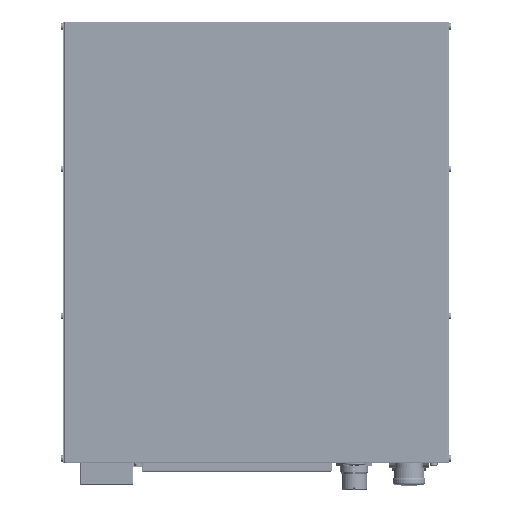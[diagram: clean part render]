
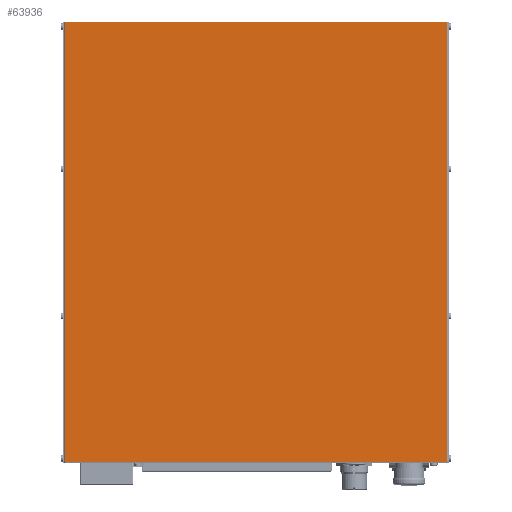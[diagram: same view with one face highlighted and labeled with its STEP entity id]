
A CAD part, top view. The second image highlights one B-rep face of the part: STEP entity #63936.
In plain terms, the highlighted planar face has unit normal (0, 0, 1) as drawn and (0, 1, 0) by its records, which use the part's own axes.
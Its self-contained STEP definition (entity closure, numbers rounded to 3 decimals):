
#2574 = CARTESIAN_POINT ( 'NONE',  ( -38.193, 202.905, -460.868 ) ) ;
#22201 = VERTEX_POINT ( 'NONE', #417628 ) ;
#63437 = DIRECTION ( 'NONE',  ( -1., 0., 0. ) ) ;
#63936 = ADVANCED_FACE ( 'NONE', ( #117860 ), #545692, .T. ) ;
#64973 = ORIENTED_EDGE ( 'NONE', *, *, #599995, .T. ) ;
#110694 = VECTOR ( 'NONE', #764912, 1000. ) ;
#115149 = VERTEX_POINT ( 'NONE', #377049 ) ;
#117860 = FACE_OUTER_BOUND ( 'NONE', #293441, .T. ) ;
#134492 = VERTEX_POINT ( 'NONE', #392253 ) ;
#138049 = ORIENTED_EDGE ( 'NONE', *, *, #244190, .T. ) ;
#243645 = VERTEX_POINT ( 'NONE', #527873 ) ;
#244190 = EDGE_CURVE ( 'NONE', #115149, #243645, #665120, .T. ) ;
#250672 = VECTOR ( 'NONE', #63437, 1000. ) ;
#293441 = EDGE_LOOP ( 'NONE', ( #138049, #624130, #64973, #688407 ) ) ;
#341423 = CARTESIAN_POINT ( 'NONE',  ( -38.193, 202.905, -62. ) ) ;
#362697 = EDGE_CURVE ( 'NONE', #22201, #115149, #534658, .T. ) ;
#363149 = DIRECTION ( 'NONE',  ( 0., 1., 0. ) ) ;
#377049 = CARTESIAN_POINT ( 'NONE',  ( -2.837, 202.905, -460.868 ) ) ;
#392253 = CARTESIAN_POINT ( 'NONE',  ( 343.963, 202.905, -62. ) ) ;
#399983 = VECTOR ( 'NONE', #415729, 1000. ) ;
#415729 = DIRECTION ( 'NONE',  ( 0., 0., 1. ) ) ;
#417628 = CARTESIAN_POINT ( 'NONE',  ( 343.963, 202.905, -460.868 ) ) ;
#418838 = DIRECTION ( 'NONE',  ( 0., 0., 1. ) ) ;
#421658 = AXIS2_PLACEMENT_3D ( 'NONE', #664923, #363149, #418838 ) ;
#466167 = CARTESIAN_POINT ( 'NONE',  ( -2.837, 202.905, -501.431 ) ) ;
#522759 = EDGE_CURVE ( 'NONE', #243645, #134492, #545934, .T. ) ;
#527873 = CARTESIAN_POINT ( 'NONE',  ( -2.837, 202.905, -62. ) ) ;
#534658 = LINE ( 'NONE', #2574, #250672 ) ;
#545692 = PLANE ( 'NONE',  #421658 ) ;
#545934 = LINE ( 'NONE', #341423, #110694 ) ;
#549937 = VECTOR ( 'NONE', #674768, 1000. ) ;
#599995 = EDGE_CURVE ( 'NONE', #134492, #22201, #635098, .T. ) ;
#611643 = CARTESIAN_POINT ( 'NONE',  ( 343.963, 202.905, -501.431 ) ) ;
#624130 = ORIENTED_EDGE ( 'NONE', *, *, #522759, .T. ) ;
#635098 = LINE ( 'NONE', #611643, #549937 ) ;
#664923 = CARTESIAN_POINT ( 'NONE',  ( -38.193, 202.905, -501.431 ) ) ;
#665120 = LINE ( 'NONE', #466167, #399983 ) ;
#674768 = DIRECTION ( 'NONE',  ( 0., 0., -1. ) ) ;
#688407 = ORIENTED_EDGE ( 'NONE', *, *, #362697, .T. ) ;
#764912 = DIRECTION ( 'NONE',  ( 1., 0., 0. ) ) ;
